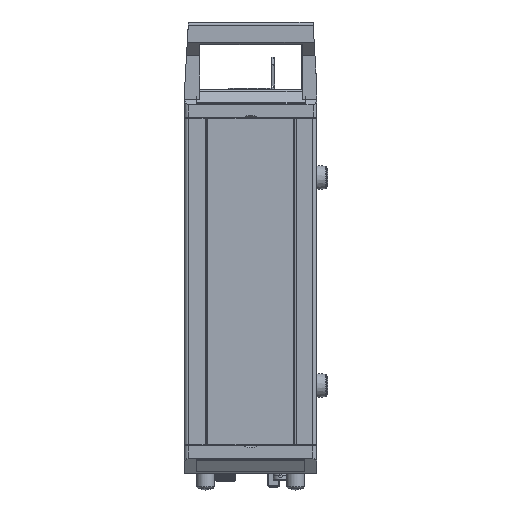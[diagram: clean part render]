
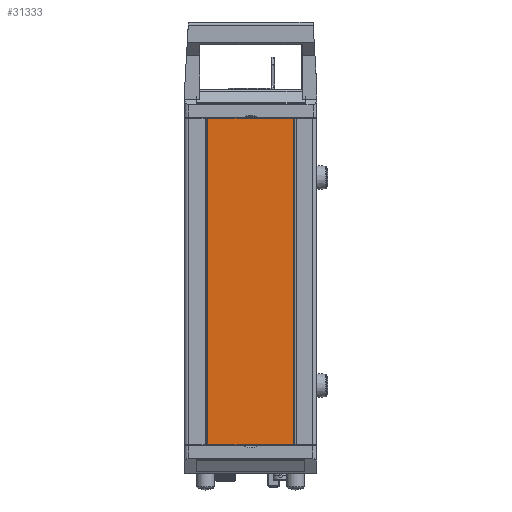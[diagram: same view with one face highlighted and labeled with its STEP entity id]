
A CAD part, left-side view. The second image highlights one B-rep face of the part: STEP entity #31333.
In plain terms, the highlighted planar face has unit normal (1, 0, 0).
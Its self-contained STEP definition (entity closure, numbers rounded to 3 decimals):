
#3189 = CARTESIAN_POINT ( 'NONE',  ( -170.56, -28.4, -108.7 ) ) ;
#7472 = EDGE_CURVE ( 'NONE', #141344, #61661, #61429, .T. ) ;
#8603 = DIRECTION ( 'NONE',  ( 0., 0., 1. ) ) ;
#9178 = EDGE_CURVE ( 'NONE', #26438, #141344, #95068, .T. ) ;
#12877 = LINE ( 'NONE', #93234, #105139 ) ;
#15398 = DIRECTION ( 'NONE',  ( 0., -1., 0. ) ) ;
#15949 = VECTOR ( 'NONE', #107181, 1000. ) ;
#26438 = VERTEX_POINT ( 'NONE', #28685 ) ;
#27468 = DIRECTION ( 'NONE',  ( 0., 0., -1. ) ) ;
#28685 = CARTESIAN_POINT ( 'NONE',  ( -170.56, 28.5, 108.7 ) ) ;
#29715 = LINE ( 'NONE', #62204, #15949 ) ;
#29990 = DIRECTION ( 'NONE',  ( -1., 0., 0. ) ) ;
#31333 = ADVANCED_FACE ( 'NONE', ( #109622 ), #122195, .F. ) ;
#40853 = ORIENTED_EDGE ( 'NONE', *, *, #9178, .T. ) ;
#41057 = CARTESIAN_POINT ( 'NONE',  ( -170.56, -28.4, 108.7 ) ) ;
#42857 = ORIENTED_EDGE ( 'NONE', *, *, #108804, .T. ) ;
#48592 = EDGE_CURVE ( 'NONE', #109736, #26438, #12877, .T. ) ;
#48957 = DIRECTION ( 'NONE',  ( 0., 0., 1. ) ) ;
#52583 = CARTESIAN_POINT ( 'NONE',  ( -170.56, -28.4, -108.7 ) ) ;
#54503 = VECTOR ( 'NONE', #15398, 1000. ) ;
#55073 = ORIENTED_EDGE ( 'NONE', *, *, #48592, .T. ) ;
#61429 = LINE ( 'NONE', #3189, #65968 ) ;
#61661 = VERTEX_POINT ( 'NONE', #52583 ) ;
#62204 = CARTESIAN_POINT ( 'NONE',  ( -170.56, 28.5, -108.7 ) ) ;
#65968 = VECTOR ( 'NONE', #27468, 1000. ) ;
#68908 = EDGE_LOOP ( 'NONE', ( #42857, #55073, #40853, #95834 ) ) ;
#80218 = CARTESIAN_POINT ( 'NONE',  ( -170.56, 28.5, -108.7 ) ) ;
#89345 = CARTESIAN_POINT ( 'NONE',  ( -170.56, -28.4, 108.7 ) ) ;
#93234 = CARTESIAN_POINT ( 'NONE',  ( -170.56, 28.5, -108.7 ) ) ;
#95068 = LINE ( 'NONE', #116469, #54503 ) ;
#95834 = ORIENTED_EDGE ( 'NONE', *, *, #7472, .T. ) ;
#105139 = VECTOR ( 'NONE', #48957, 1000. ) ;
#106686 = AXIS2_PLACEMENT_3D ( 'NONE', #41057, #29990, #8603 ) ;
#107181 = DIRECTION ( 'NONE',  ( 0., 1., 0. ) ) ;
#108804 = EDGE_CURVE ( 'NONE', #61661, #109736, #29715, .T. ) ;
#109622 = FACE_OUTER_BOUND ( 'NONE', #68908, .T. ) ;
#109736 = VERTEX_POINT ( 'NONE', #80218 ) ;
#116469 = CARTESIAN_POINT ( 'NONE',  ( -170.56, 28.5, 108.7 ) ) ;
#122195 = PLANE ( 'NONE',  #106686 ) ;
#141344 = VERTEX_POINT ( 'NONE', #89345 ) ;
